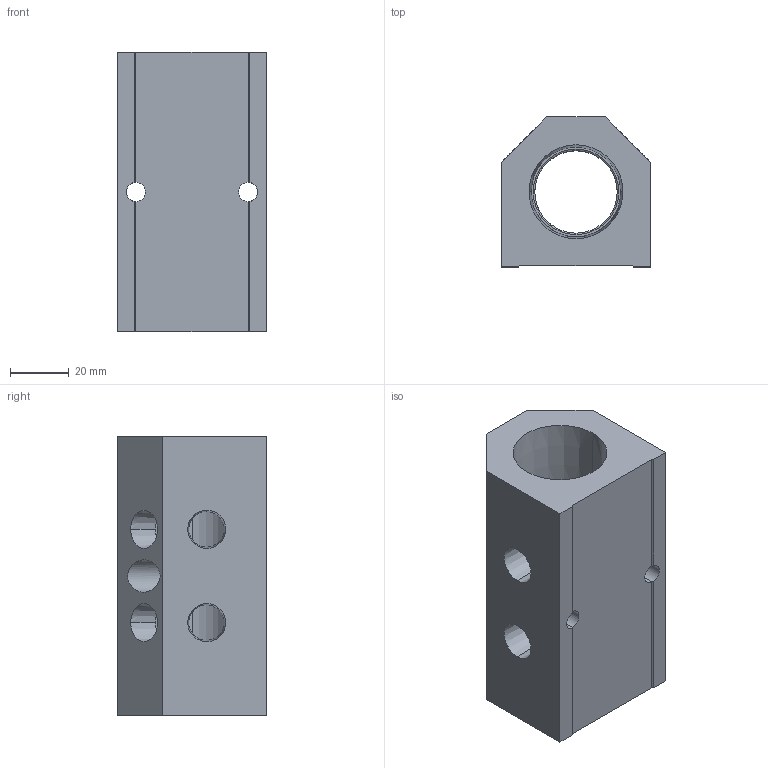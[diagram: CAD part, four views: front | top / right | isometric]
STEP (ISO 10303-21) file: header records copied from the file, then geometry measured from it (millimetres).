
FILE_DESCRIPTION (( 'STEP AP214' ), '1' );
FILE_NAME ('ALM2AB-N4N16-95B.STEP', '2023-11-02T06:30:25', ( '' ), ( '' ), 'SwSTEP 2.0', 'SolidWorks 2020', '' );
FILE_SCHEMA (( 'AUTOMOTIVE_DESIGN' ));
Length unit declared in the file: millimetre
Products named in the file (1): ALM2AB-N4N16-95B
Bounding box: 50.8 x 50.8 x 95 mm (x, y, z)
Volume: 145388.7 mm3; surface area: 32371.1 mm2
Topology: 1 solids, 1 shells, 287 faces, 750 edges, 496 vertices
Faces by surface type: plane 202, bspline 55, cone 16, cylinder 14
Entity records: 15139 total; most frequent: CARTESIAN_POINT 5745, ORIENTED_EDGE 1500, DIRECTION 1126, EDGE_CURVE 750, LINE 580, VECTOR 580, VERTEX_POINT 496, EDGE_LOOP 332
